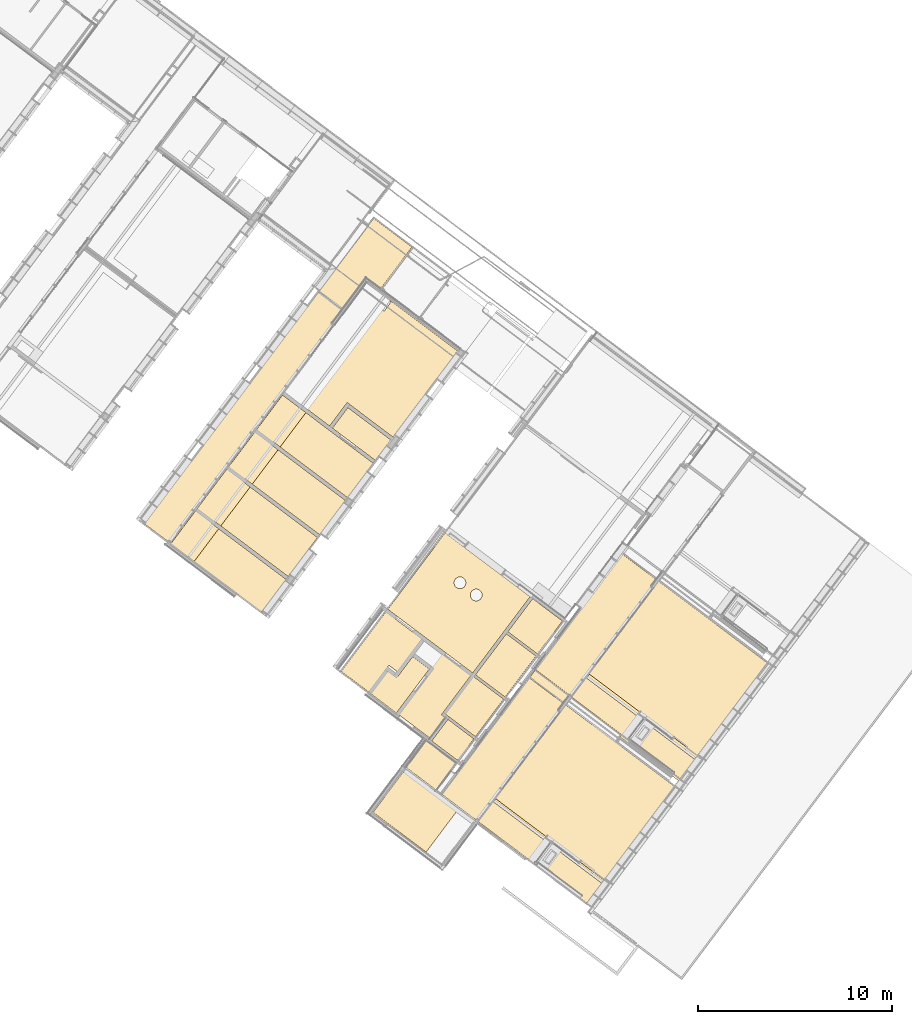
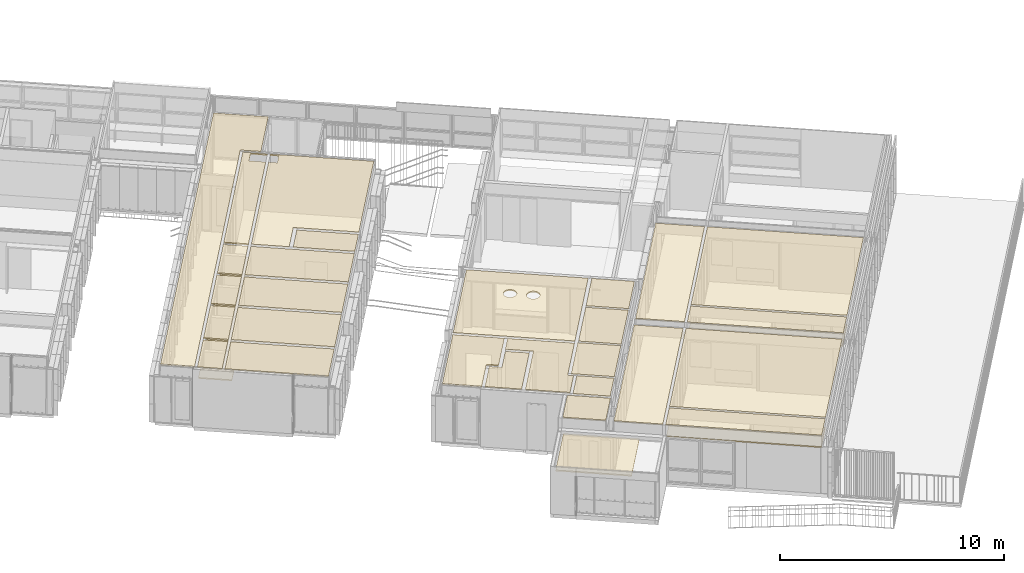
# One storey, part 217 of 243: 30 coverings.
"""IFC2X3 building model written with IfcOpenShell, lengths in metres."""

from ifc_helpers import new_model, entity, si_unit, converted_unit, derived_unit, direction, frame, frame_2d, origin, place, context, subcontext, project, spatial, polyline, circle_curve, parameter, trimmed, segment, composite_curve, rectangle, outline, extrude, material, layer, layer_set, layer_usage, type_object, element, save


model = new_model("IFC2X3")

# Units and contexts
model_context = context("Model", 3, precision=1e-05, world=origin(), true_north=direction((6.123031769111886e-17, 1.0)))
body_context = subcontext(model_context, "Body", "Model", "MODEL_VIEW")
ifc_project = project(units=[si_unit("LENGTHUNIT", "METRE"), si_unit("AREAUNIT", "SQUARE_METRE"), si_unit("VOLUMEUNIT", "CUBIC_METRE"), converted_unit("PLANEANGLEUNIT", "DEGREE", entity("IfcRatioMeasure", 0.017453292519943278), si_unit("PLANEANGLEUNIT", "RADIAN"), dimensions=[0, 0, 0, 0, 0, 0, 0]), si_unit("MASSUNIT", "GRAM", prefix="KILO"), derived_unit("MASSDENSITYUNIT", [(si_unit("MASSUNIT", "GRAM", prefix="KILO"), 1), (si_unit("LENGTHUNIT", "METRE"), -3)]), derived_unit("IONCONCENTRATIONUNIT", [(si_unit("MASSUNIT", "GRAM", prefix="KILO"), 1), (si_unit("LENGTHUNIT", "METRE"), -3)]), derived_unit("MOMENTOFINERTIAUNIT", [(si_unit("LENGTHUNIT", "METRE"), 4)]), si_unit("TIMEUNIT", "SECOND"), si_unit("FREQUENCYUNIT", "HERTZ"), si_unit("THERMODYNAMICTEMPERATUREUNIT", "DEGREE_CELSIUS"), derived_unit("THERMALTRANSMITTANCEUNIT", [(si_unit("MASSUNIT", "GRAM", prefix="KILO"), 1), (si_unit("THERMODYNAMICTEMPERATUREUNIT", "KELVIN"), -1), (si_unit("TIMEUNIT", "SECOND"), -3)]), derived_unit("THERMALCONDUCTANCEUNIT", [(si_unit("MASSUNIT", "GRAM", prefix="KILO"), 1), (si_unit("THERMODYNAMICTEMPERATUREUNIT", "KELVIN"), -1), (si_unit("TIMEUNIT", "SECOND"), -3), (si_unit("LENGTHUNIT", "METRE"), 1)]), derived_unit("VOLUMETRICFLOWRATEUNIT", [(si_unit("LENGTHUNIT", "METRE"), 3), (si_unit("TIMEUNIT", "SECOND"), -1)]), derived_unit("MASSFLOWRATEUNIT", [(si_unit("MASSUNIT", "GRAM", prefix="KILO"), 1), (si_unit("TIMEUNIT", "SECOND"), -1)]), derived_unit("ROTATIONALFREQUENCYUNIT", [(si_unit("TIMEUNIT", "SECOND"), -1)]), si_unit("ELECTRICCURRENTUNIT", "AMPERE"), si_unit("ELECTRICVOLTAGEUNIT", "VOLT"), si_unit("POWERUNIT", "WATT"), si_unit("FORCEUNIT", "NEWTON", prefix="KILO"), si_unit("ILLUMINANCEUNIT", "LUX"), si_unit("LUMINOUSFLUXUNIT", "LUMEN"), si_unit("LUMINOUSINTENSITYUNIT", "CANDELA"), derived_unit("USERDEFINED", [(si_unit("MASSUNIT", "GRAM", prefix="KILO"), -1), (si_unit("LENGTHUNIT", "METRE"), -2), (si_unit("TIMEUNIT", "SECOND"), 3), (si_unit("LUMINOUSFLUXUNIT", "LUMEN"), 1)]), derived_unit("USERDEFINED", [(si_unit("MASSUNIT", "GRAM", prefix="KILO"), 1), (si_unit("TIMEUNIT", "SECOND"), -3), (si_unit("LENGTHUNIT", "METRE"), 3), (si_unit("ELECTRICCURRENTUNIT", "AMPERE"), -2)]), derived_unit("SOUNDPOWERUNIT", [(si_unit("MASSUNIT", "GRAM", prefix="KILO"), 1), (si_unit("TIMEUNIT", "SECOND"), -3), (si_unit("LENGTHUNIT", "METRE"), 2)]), derived_unit("SOUNDPRESSUREUNIT", [(si_unit("MASSUNIT", "GRAM", prefix="KILO"), 1), (si_unit("LENGTHUNIT", "METRE"), -1), (si_unit("TIMEUNIT", "SECOND"), -2)]), derived_unit("LINEARVELOCITYUNIT", [(si_unit("LENGTHUNIT", "METRE"), 1), (si_unit("TIMEUNIT", "SECOND"), -1)]), si_unit("PRESSUREUNIT", "PASCAL"), derived_unit("USERDEFINED", [(si_unit("MASSUNIT", "GRAM", prefix="KILO"), 1), (si_unit("LENGTHUNIT", "METRE"), -2), (si_unit("TIMEUNIT", "SECOND"), -2)]), derived_unit("LINEARFORCEUNIT", [(si_unit("MASSUNIT", "GRAM", prefix="KILO"), 1), (si_unit("TIMEUNIT", "SECOND"), -2)]), derived_unit("PLANARFORCEUNIT", [(si_unit("MASSUNIT", "GRAM", prefix="KILO"), 1), (si_unit("LENGTHUNIT", "METRE"), -1), (si_unit("TIMEUNIT", "SECOND"), -2)]), derived_unit("SPECIFICHEATCAPACITYUNIT", [(si_unit("THERMODYNAMICTEMPERATUREUNIT", "KELVIN"), -1), (si_unit("LENGTHUNIT", "METRE"), 2), (si_unit("TIMEUNIT", "SECOND"), -2)]), derived_unit("HEATINGVALUEUNIT", [(si_unit("LENGTHUNIT", "METRE"), 2), (si_unit("TIMEUNIT", "SECOND"), -2)]), derived_unit("VAPORPERMEABILITYUNIT", [(si_unit("LENGTHUNIT", "METRE"), -1), (si_unit("TIMEUNIT", "SECOND"), 1)]), derived_unit("DYNAMICVISCOSITYUNIT", [(si_unit("MASSUNIT", "GRAM", prefix="KILO"), 1), (si_unit("TIMEUNIT", "SECOND"), -1), (si_unit("LENGTHUNIT", "METRE"), -1)]), derived_unit("THERMALEXPANSIONCOEFFICIENTUNIT", [(si_unit("THERMODYNAMICTEMPERATUREUNIT", "KELVIN"), -1)]), derived_unit("MODULUSOFELASTICITYUNIT", [(si_unit("MASSUNIT", "GRAM", prefix="KILO"), 1), (si_unit("LENGTHUNIT", "METRE"), -1), (si_unit("TIMEUNIT", "SECOND"), -2)]), derived_unit("ISOTHERMALMOISTURECAPACITYUNIT", [(si_unit("LENGTHUNIT", "METRE"), 3), (si_unit("MASSUNIT", "GRAM", prefix="KILO"), -1)]), derived_unit("MOISTUREDIFFUSIVITYUNIT", [(si_unit("TIMEUNIT", "SECOND"), -1), (si_unit("LENGTHUNIT", "METRE"), 2)])], contexts=[model_context])

# Site, building, storey
site_placement = place(None, frame((0.0, 0.0, 235.0), z_axis=(0.0, 0.0, 1.0), x_axis=(-0.7996477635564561, 0.6004693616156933, 0.0)))
site = spatial("IfcSite", under=ifc_project, at=site_placement, Name="Default", CompositionType="ELEMENT")
building_placement = place(site_placement, origin())
building = spatial("IfcBuilding", under=site, at=building_placement, CompositionType="ELEMENT")
storey_placement = place(building_placement, origin())
storey = spatial("IfcBuildingStorey", under=building, at=storey_placement, Name="P0- Escola", CompositionType="ELEMENT", Elevation=0.0)

# Coverings
ifc_material_1 = material(Name="_Aillament")
ifc_layer_1 = layer(ifc_material_1, 0.05)
ifc_material_2 = material(Name="_PYL- SOS")
ifc_layer_2 = layer(ifc_material_2, 0.015)
ifc_layer_set_1 = layer_set([ifc_layer_1, ifc_layer_2], Name="Techo compuesto:SOS- Guix Laminat- Aillament- 6,5 cm")
ifc_layer_usage_1 = layer_usage(ifc_layer_set_1, "AXIS3", "POSITIVE", 0.0)
covering_type_1 = type_object("IfcCoveringType", Name="Techo compuesto:SOS- Guix Laminat- Aillament- 6,5 cm", PredefinedType="CEILING")
covering_1_placement = place(storey_placement, frame((33.816147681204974, -40.08019175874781, 3.0850000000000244)))
element("IfcCovering", 1, at=covering_1_placement, inside=storey, type_object=covering_type_1, material=ifc_layer_usage_1, Name="Techo compuesto:SOS- Guix Laminat- Aillament- 6,5 cm", ObjectType="Techo compuesto:SOS- Guix Laminat- Aillament- 6,5 cm", PredefinedType="CEILING", context=body_context, shape_type="SweptSolid", body=[
    extrude(outline(polyline([(-2.881318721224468, -1.1425714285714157), (12.723053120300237, -1.1425714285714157), (12.723053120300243, 0.39242857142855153), (-4.279196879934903, 0.3924285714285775), (-4.279196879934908, 1.321428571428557), (-7.003196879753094, 1.3214285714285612), (-7.003196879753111, -1.1425714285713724), (-2.881318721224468, -1.1425714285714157)])), frame((1.3214285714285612, 7.003196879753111, 0.0), z_axis=(0.0, 0.0, 1.0), x_axis=(0.0, 1.0, 0.0)), (0.0, 0.0, 1.0), 0.06499999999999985),
])
covering_2_placement = place(storey_placement, frame((28.710147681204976, -37.20119175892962, 3.0850000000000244)))
element("IfcCovering", 2, at=covering_2_placement, inside=storey, type_object=covering_type_1, material=ifc_layer_usage_1, Name="Techo compuesto:SOS- Guix Laminat- Aillament- 6,5 cm", ObjectType="Techo compuesto:SOS- Guix Laminat- Aillament- 6,5 cm", PredefinedType="CEILING", context=body_context, shape_type="SweptSolid", body=[
    extrude(outline(polyline([(-2.6628007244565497, -1.3523999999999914), (-2.6217989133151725, -1.3523999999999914), (-2.6217989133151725, -0.9594000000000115), (-2.0217989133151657, -0.9594000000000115), (-2.02179891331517, -1.3523999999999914), (4.408199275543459, -1.3524000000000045), (4.408199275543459, 0.35359999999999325), (2.8981992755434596, 0.35359999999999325), (2.8981992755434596, 3.310599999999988), (-2.6628007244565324, 3.3105999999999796), (-2.6628007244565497, -1.3523999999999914)])), frame((3.3105999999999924, 2.6628007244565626, 0.0), z_axis=(0.0, 0.0, 1.0), x_axis=(0.0, 1.0, 0.0)), (0.0, 0.0, 1.0), 0.06499999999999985),
    extrude(outline(polyline([(-5.132749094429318, -0.46725000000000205), (1.2972490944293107, -0.46725000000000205), (1.2972490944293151, 0.2897500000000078), (1.8972490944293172, 0.2897500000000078), (1.897249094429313, -0.46725000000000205), (1.938250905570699, -0.46725000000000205), (1.938250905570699, 0.6447499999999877), (-5.132749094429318, 0.6447499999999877), (-5.132749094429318, -0.46725000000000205)])), frame((5.260249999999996, 1.9382509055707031, 0.0), z_axis=(0.0, 0.0, 1.0), x_axis=(0.0, -1.0, 0.0)), (0.0, 0.0, 1.0), 0.06499999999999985),
])
covering_3_placement = place(storey_placement, frame((28.710147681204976, -29.950191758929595, 3.0850000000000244)))
element("IfcCovering", 3, at=covering_3_placement, inside=storey, type_object=covering_type_1, material=ifc_layer_usage_1, Name="Techo compuesto:SOS- Guix Laminat- Aillament- 6,5 cm", ObjectType="Techo compuesto:SOS- Guix Laminat- Aillament- 6,5 cm", PredefinedType="CEILING", context=body_context, shape_type="SweptSolid", body=[
    extrude(rectangle(XDim=4.662999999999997, YDim=2.220999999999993, at=frame_2d((2.220446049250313e-15, 2.1094237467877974e-15), x_axis=(1.0, 0.0))), frame((2.3314999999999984, 1.1104999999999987, 0.0)), (0.0, 0.0, 1.0), 0.06499999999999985),
    extrude(rectangle(XDim=1.1119999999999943, YDim=2.2209999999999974, at=frame_2d((2.1649348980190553e-15, 0.0), x_axis=(1.0, 0.0))), frame((5.348999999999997, 1.1104999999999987, 0.0), z_axis=(0.0, 0.0, 1.0), x_axis=(-1.0, 0.0, 0.0)), (0.0, 0.0, 1.0), 0.06499999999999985),
])
covering_4_placement = place(storey_placement, frame((28.71014768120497, -27.5491917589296, 3.0850000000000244)))
element("IfcCovering", 4, at=covering_4_placement, inside=storey, type_object=covering_type_1, material=ifc_layer_usage_1, Name="Techo compuesto:SOS- Guix Laminat- Aillament- 6,5 cm", ObjectType="Techo compuesto:SOS- Guix Laminat- Aillament- 6,5 cm", PredefinedType="CEILING", context=body_context, shape_type="SweptSolid", body=[
    extrude(rectangle(XDim=4.663000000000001, YDim=2.219000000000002, at=frame_2d((4.440892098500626e-15, 2.1094237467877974e-15), x_axis=(1.0, 0.0))), frame((2.3315000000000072, 1.1095000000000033, 0.0)), (0.0, 0.0, 1.0), 0.06499999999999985),
    extrude(rectangle(XDim=1.1119999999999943, YDim=2.2190000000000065, at=frame_2d((2.1649348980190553e-15, 0.0), x_axis=(1.0, 0.0))), frame((5.3490000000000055, 1.1095000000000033, 0.0)), (0.0, 0.0, 1.0), 0.06499999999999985),
])
covering_5_placement = place(storey_placement, frame((28.71014768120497, -25.150191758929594, 3.0850000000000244)))
element("IfcCovering", 5, at=covering_5_placement, inside=storey, type_object=covering_type_1, material=ifc_layer_usage_1, Name="Techo compuesto:SOS- Guix Laminat- Aillament- 6,5 cm", ObjectType="Techo compuesto:SOS- Guix Laminat- Aillament- 6,5 cm", PredefinedType="CEILING", context=body_context, shape_type="SweptSolid", body=[
    extrude(rectangle(XDim=4.66300000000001, YDim=2.5199999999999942, at=frame_2d((4.218847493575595e-15, 2.1094237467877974e-15), x_axis=(1.0, 0.0))), frame((2.3315000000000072, 1.2599999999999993, 0.0)), (0.0, 0.0, 1.0), 0.06499999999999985),
    extrude(rectangle(XDim=2.5199999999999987, YDim=1.1120000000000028, at=frame_2d((0.0, 2.1649348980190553e-15), x_axis=(1.0, 0.0))), frame((5.349000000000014, 1.2599999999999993, 0.0), z_axis=(0.0, 0.0, 1.0), x_axis=(0.0, 1.0, 0.0)), (0.0, 0.0, 1.0), 0.06499999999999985),
])
covering_6_placement = place(storey_placement, frame((28.71014768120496, -22.450191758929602, 3.0850000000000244)))
element("IfcCovering", 6, at=covering_6_placement, inside=storey, type_object=covering_type_1, material=ifc_layer_usage_1, Name="Techo compuesto:SOS- Guix Laminat- Aillament- 6,5 cm", ObjectType="Techo compuesto:SOS- Guix Laminat- Aillament- 6,5 cm", PredefinedType="CEILING", context=body_context, shape_type="SweptSolid", body=[
    extrude(rectangle(XDim=4.663000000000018, YDim=2.1150000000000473, at=frame_2d((0.0, -2.1094237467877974e-15), x_axis=(1.0, 0.0))), frame((2.3315000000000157, 1.0575000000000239, 0.0)), (0.0, 0.0, 1.0), 0.06499999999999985),
    extrude(rectangle(XDim=2.115000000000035, YDim=1.111999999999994, at=frame_2d((4.3298697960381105e-15, 0.0), x_axis=(1.0, 0.0))), frame((5.349000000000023, 1.0575000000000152, 0.0), z_axis=(0.0, 0.0, 1.0), x_axis=(0.0, 1.0, 0.0)), (0.0, 0.0, 1.0), 0.06499999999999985),
])
covering_7_placement = place(storey_placement, frame((28.710147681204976, -31.460191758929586, 3.0849999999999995)))
element("IfcCovering", 7, at=covering_7_placement, inside=storey, type_object=covering_type_1, material=ifc_layer_usage_1, Name="Techo compuesto:SOS- Guix Laminat- Aillament- 6,5 cm", ObjectType="Techo compuesto:SOS- Guix Laminat- Aillament- 6,5 cm", PredefinedType="CEILING", context=body_context, shape_type="SweptSolid", body=[
    extrude(rectangle(XDim=2.776999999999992, YDim=1.3299999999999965, at=frame_2d((4.3298697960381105e-15, -2.1649348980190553e-15), x_axis=(1.0, 0.0))), frame((1.3884999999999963, 0.6649999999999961, 0.0)), (0.0, 0.0, 1.0), 0.06499999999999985),
])
covering_8_placement = place(storey_placement, frame((13.410147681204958, -33.92519175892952, 3.0849999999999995)))
element("IfcCovering", 8, at=covering_8_placement, inside=storey, type_object=covering_type_1, material=ifc_layer_usage_1, Name="Techo compuesto:SOS- Guix Laminat- Aillament- 6,5 cm", ObjectType="Techo compuesto:SOS- Guix Laminat- Aillament- 6,5 cm", PredefinedType="CEILING", context=body_context, shape_type="SweptSolid", body=[
    extrude(rectangle(XDim=2.1999999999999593, YDim=7.469999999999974, at=frame_2d((1.2989609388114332e-14, 6.439293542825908e-15), x_axis=(1.0, 0.0))), frame((1.1000000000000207, 3.735, 0.0), z_axis=(0.0, 0.0, 1.0), x_axis=(-1.0, 0.0, 0.0)), (0.0, 0.0, 1.0), 0.06499999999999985),
])
covering_9_placement = place(storey_placement, frame((13.410147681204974, -25.925191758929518, 3.0849999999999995)))
element("IfcCovering", 9, at=covering_9_placement, inside=storey, type_object=covering_type_1, material=ifc_layer_usage_1, Name="Techo compuesto:SOS- Guix Laminat- Aillament- 6,5 cm", ObjectType="Techo compuesto:SOS- Guix Laminat- Aillament- 6,5 cm", PredefinedType="CEILING", context=body_context, shape_type="SweptSolid", body=[
    extrude(rectangle(XDim=2.1999999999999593, YDim=7.519999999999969, at=frame_2d((1.0769163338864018e-14, 7.549516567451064e-15), x_axis=(1.0, 0.0))), frame((1.1000000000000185, 3.7599999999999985, 0.0), z_axis=(0.0, 0.0, 1.0), x_axis=(-1.0, 0.0, 0.0)), (0.0, 0.0, 1.0), 0.06499999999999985),
])
covering_10_placement = place(storey_placement, frame((18.095147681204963, -29.300191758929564, 3.0849999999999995)))
element("IfcCovering", 10, at=covering_10_placement, inside=storey, type_object=covering_type_1, material=ifc_layer_usage_1, Name="Techo compuesto:SOS- Guix Laminat- Aillament- 6,5 cm", ObjectType="Techo compuesto:SOS- Guix Laminat- Aillament- 6,5 cm", PredefinedType="CEILING", context=body_context, shape_type="SweptSolid", body=[
    extrude(outline(polyline([(1.1748000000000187, -2.1940000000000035), (2.1727999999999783, -2.1940000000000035), (2.1728, 3.2910000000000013), (-2.7601999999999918, 3.291000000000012), (-2.760200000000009, -2.1939999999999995), (1.1748000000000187, -2.1940000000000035)]), holes=[composite_curve([segment(trimmed(circle_curve(frame_2d((-1.1581999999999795, 1.0129999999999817), x_axis=(0.0, -1.0)), 0.303), [parameter(0.0)], [parameter(180.00000000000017)], True, "PARAMETER"), False, "CONTINUOUS"), segment(trimmed(circle_curve(frame_2d((-1.1581999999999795, 1.0129999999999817), x_axis=(0.0, -1.0)), 0.303), [parameter(180.00000000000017)], [parameter(0.0)], True, "PARAMETER"), False, "CONTINUOUS")], self_intersect=False), composite_curve([segment(trimmed(circle_curve(frame_2d((-1.1581999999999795, -0.03614354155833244), x_axis=(0.0, -1.0)), 0.303), [parameter(180.00000000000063)], [parameter(0.0)], True, "PARAMETER"), False, "CONTINUOUS"), segment(trimmed(circle_curve(frame_2d((-1.1581999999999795, -0.03614354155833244), x_axis=(0.0, -1.0)), 0.303), [parameter(0.0)], [parameter(180.00000000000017)], True, "PARAMETER"), False, "CONTINUOUS")], self_intersect=False)]), frame((3.291000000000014, 2.760200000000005, 0.0), z_axis=(0.0, 0.0, 1.0), x_axis=(0.0, 1.0, 0.0)), (0.0, 0.0, 1.0), 0.06499999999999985),
])
covering_11_placement = place(storey_placement, frame((20.010147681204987, -23.190191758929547, 3.0849999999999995)))
element("IfcCovering", 11, at=covering_11_placement, inside=storey, type_object=covering_type_1, material=ifc_layer_usage_1, Name="Techo compuesto:SOS- Guix Laminat- Aillament- 6,5 cm", ObjectType="Techo compuesto:SOS- Guix Laminat- Aillament- 6,5 cm", PredefinedType="CEILING", context=body_context, shape_type="SweptSolid", body=[
    extrude(outline(polyline([(-0.9103333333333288, -1.3666666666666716), (0.16566666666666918, -1.3666666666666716), (0.16566666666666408, -0.10166666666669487), (0.7446666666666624, -0.10166666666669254), (0.744666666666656, 1.4683333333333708), (-0.9103333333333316, 1.468333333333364), (-0.9103333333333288, -1.3666666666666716)])), frame((0.9103333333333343, 1.3666666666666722, 0.0)), (0.0, 0.0, 1.0), 0.06499999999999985),
])
covering_12_placement = place(storey_placement, frame((16.01014768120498, -27.03319175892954, 3.0849999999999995)))
element("IfcCovering", 12, at=covering_12_placement, inside=storey, type_object=covering_type_1, material=ifc_layer_usage_1, Name="Techo compuesto:SOS- Guix Laminat- Aillament- 6,5 cm", ObjectType="Techo compuesto:SOS- Guix Laminat- Aillament- 6,5 cm", PredefinedType="CEILING", context=body_context, shape_type="SweptSolid", body=[
    extrude(rectangle(XDim=2.653000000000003, YDim=1.919999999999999, at=frame_2d((0.0, -2.1649348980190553e-15), x_axis=(1.0, 0.0))), frame((0.9599999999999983, 1.3265000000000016, 0.0), z_axis=(0.0, 0.0, 1.0), x_axis=(0.0, -1.0, 0.0)), (0.0, 0.0, 1.0), 0.06499999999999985),
])
covering_13_placement = place(storey_placement, frame((16.010147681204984, -29.300191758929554, 3.0849999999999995)))
element("IfcCovering", 13, at=covering_13_placement, inside=storey, type_object=covering_type_1, material=ifc_layer_usage_1, Name="Techo compuesto:SOS- Guix Laminat- Aillament- 6,5 cm", ObjectType="Techo compuesto:SOS- Guix Laminat- Aillament- 6,5 cm", PredefinedType="CEILING", context=body_context, shape_type="SweptSolid", body=[
    extrude(rectangle(XDim=2.1370000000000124, YDim=1.9199999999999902, at=frame_2d((0.0, -3.219646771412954e-15), x_axis=(1.0, 0.0))), frame((0.959999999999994, 1.0685000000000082, 0.0), z_axis=(0.0, 0.0, 1.0), x_axis=(0.0, -1.0, 0.0)), (0.0, 0.0, 1.0), 0.06499999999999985),
])
covering_14_placement = place(storey_placement, frame((16.010147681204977, -21.69019175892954, 3.0849999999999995)))
element("IfcCovering", 14, at=covering_14_placement, inside=storey, type_object=covering_type_1, material=ifc_layer_usage_1, Name="Techo compuesto:SOS- Guix Laminat- Aillament- 6,5 cm", ObjectType="Techo compuesto:SOS- Guix Laminat- Aillament- 6,5 cm", PredefinedType="CEILING", context=body_context, shape_type="SweptSolid", body=[
    extrude(rectangle(XDim=1.4000000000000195, YDim=1.6760000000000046, at=frame_2d((0.0, 1.0547118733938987e-15), x_axis=(1.0, 0.0))), frame((0.8380000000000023, 0.7000000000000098, 0.0), z_axis=(0.0, 0.0, 1.0), x_axis=(0.0, -1.0, 0.0)), (0.0, 0.0, 1.0), 0.06499999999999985),
])
covering_15_placement = place(storey_placement, frame((16.010147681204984, -24.250191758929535, 3.0850000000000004)))
element("IfcCovering", 15, at=covering_15_placement, inside=storey, type_object=covering_type_1, material=ifc_layer_usage_1, Name="Techo compuesto:SOS- Guix Laminat- Aillament- 6,5 cm", ObjectType="Techo compuesto:SOS- Guix Laminat- Aillament- 6,5 cm", PredefinedType="CEILING", context=body_context, shape_type="SweptSolid", body=[
    extrude(rectangle(XDim=1.9450000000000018, YDim=2.429999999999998, at=frame_2d((-1.1102230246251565e-15, 2.1094237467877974e-15), x_axis=(1.0, 0.0))), frame((0.9724999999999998, 1.2149999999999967, 0.0)), (0.0, 0.0, 1.0), 0.06499999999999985),
])
covering_16_placement = place(storey_placement, frame((17.826147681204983, -24.202191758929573, 3.0850000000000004)))
element("IfcCovering", 16, at=covering_16_placement, inside=storey, type_object=covering_type_1, material=ifc_layer_usage_1, Name="Techo compuesto:SOS- Guix Laminat- Aillament- 6,5 cm", ObjectType="Techo compuesto:SOS- Guix Laminat- Aillament- 6,5 cm", PredefinedType="CEILING", context=body_context, shape_type="SweptSolid", body=[
    extrude(outline(polyline([(-1.3932499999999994, -0.7180000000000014), (-1.3932499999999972, -2.043000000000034), (0.625750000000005, -2.043000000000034), (0.6257500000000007, 0.9570000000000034), (1.8917500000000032, 0.9570000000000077), (1.8917500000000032, 1.8040000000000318), (-1.1242500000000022, 1.8040000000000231), (-1.1242499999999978, -0.7180000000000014), (-1.3932499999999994, -0.7180000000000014)])), frame((1.3932499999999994, 1.8040000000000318, 0.0), z_axis=(0.0, 0.0, -1.0), x_axis=(1.0, 0.0, 0.0)), (0.0, 0.0, -1.0), 0.06499999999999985),
])
covering_17_placement = place(storey_placement, frame((21.251147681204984, -24.202191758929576, 3.0850000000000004)))
element("IfcCovering", 17, at=covering_17_placement, inside=storey, type_object=covering_type_1, material=ifc_layer_usage_1, Name="Techo compuesto:SOS- Guix Laminat- Aillament- 6,5 cm", ObjectType="Techo compuesto:SOS- Guix Laminat- Aillament- 6,5 cm", PredefinedType="CEILING", context=body_context, shape_type="SweptSolid", body=[
    extrude(outline(polyline([(0.41033333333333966, -0.12566666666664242), (0.9593333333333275, -0.12566666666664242), (0.9593333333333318, 1.9863333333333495), (-1.3696666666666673, 1.9863333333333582), (-1.3696666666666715, -1.8606666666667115), (0.4103333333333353, -1.8606666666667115), (0.41033333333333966, -0.12566666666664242)])), frame((0.9593333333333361, 1.9863333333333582, 0.0), z_axis=(0.0, 0.0, 1.0), x_axis=(-1.0, 0.0, 0.0)), (0.0, 0.0, 1.0), 0.06499999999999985),
])
covering_18_placement = place(storey_placement, frame((6.250147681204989, -33.92519175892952, 3.0849999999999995)))
element("IfcCovering", 18, at=covering_18_placement, inside=storey, type_object=covering_type_1, material=ifc_layer_usage_1, Name="Techo compuesto:SOS- Guix Laminat- Aillament- 6,5 cm", ObjectType="Techo compuesto:SOS- Guix Laminat- Aillament- 6,5 cm", PredefinedType="CEILING", context=body_context, shape_type="SweptSolid", body=[
    extrude(rectangle(XDim=6.104000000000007, YDim=7.030000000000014, at=frame_2d((-2.5979218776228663e-14, -1.4210854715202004e-14), x_axis=(1.0, 0.0))), frame((3.514999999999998, 3.0519999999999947, 0.0), z_axis=(0.0, 0.0, 1.0), x_axis=(0.0, -1.0, 0.0)), (0.0, 0.0, 1.0), 0.06499999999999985),
])
covering_19_placement = place(storey_placement, frame((6.250147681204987, -27.691191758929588, 3.0849999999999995)))
element("IfcCovering", 19, at=covering_19_placement, inside=storey, type_object=covering_type_1, material=ifc_layer_usage_1, Name="Techo compuesto:SOS- Guix Laminat- Aillament- 6,5 cm", ObjectType="Techo compuesto:SOS- Guix Laminat- Aillament- 6,5 cm", PredefinedType="CEILING", context=body_context, shape_type="SweptSolid", body=[
    extrude(rectangle(XDim=7.030000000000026, YDim=1.2510000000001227, at=frame_2d((-2.6645352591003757e-15, -1.2989609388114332e-14), x_axis=(1.0, 0.0))), frame((3.515000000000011, 0.6255000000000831, 0.0), z_axis=(0.0, 0.0, 1.0), x_axis=(-1.0, 0.0, 0.0)), (0.0, 0.0, 1.0), 0.06499999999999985),
])
covering_20_placement = place(storey_placement, frame((6.250147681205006, -25.94019175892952, 3.0849999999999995)))
element("IfcCovering", 20, at=covering_20_placement, inside=storey, type_object=covering_type_1, material=ifc_layer_usage_1, Name="Techo compuesto:SOS- Guix Laminat- Aillament- 6,5 cm", ObjectType="Techo compuesto:SOS- Guix Laminat- Aillament- 6,5 cm", PredefinedType="CEILING", context=body_context, shape_type="SweptSolid", body=[
    extrude(rectangle(XDim=6.1189999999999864, YDim=7.030000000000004, at=frame_2d((-1.2878587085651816e-14, -1.354472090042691e-14), x_axis=(1.0, 0.0))), frame((3.5149999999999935, 3.059499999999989, 0.0), z_axis=(0.0, 0.0, 1.0), x_axis=(0.0, -1.0, 0.0)), (0.0, 0.0, 1.0), 0.06499999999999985),
])
covering_21_placement = place(storey_placement, frame((6.2501476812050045, -19.691191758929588, 3.0849999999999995)))
element("IfcCovering", 21, at=covering_21_placement, inside=storey, type_object=covering_type_1, material=ifc_layer_usage_1, Name="Techo compuesto:SOS- Guix Laminat- Aillament- 6,5 cm", ObjectType="Techo compuesto:SOS- Guix Laminat- Aillament- 6,5 cm", PredefinedType="CEILING", context=body_context, shape_type="SweptSolid", body=[
    extrude(rectangle(XDim=7.030000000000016, YDim=1.2860000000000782, at=frame_2d((-3.1086244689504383e-15, -1.1934897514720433e-14), x_axis=(1.0, 0.0))), frame((3.515000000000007, 0.6430000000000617, 0.0), z_axis=(0.0, 0.0, 1.0), x_axis=(-1.0, 0.0, 0.0)), (0.0, 0.0, 1.0), 0.06499999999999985),
])
covering_22_placement = place(storey_placement, frame((14.46668898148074, -18.40519175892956, 2.2)))
element("IfcCovering", 22, at=covering_22_placement, inside=storey, type_object=covering_type_1, material=ifc_layer_usage_1, Name="Techo compuesto:SOS- Guix Laminat- Aillament- 6,5 cm", ObjectType="Techo compuesto:SOS- Guix Laminat- Aillament- 6,5 cm", PredefinedType="CEILING", context=body_context, shape_type="SweptSolid", body=[
    extrude(rectangle(XDim=2.8800000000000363, YDim=3.423458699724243, at=frame_2d((-0.45833333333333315, 3.9968028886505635e-15), x_axis=(1.0, 0.0))), frame((1.7117293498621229, 0.9816666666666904, 0.0), z_axis=(0.0, 0.0, 1.0), x_axis=(0.0, -1.0, 0.0)), (0.0, 0.0, 1.0), 0.06500000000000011),
])
covering_23_placement = place(storey_placement, frame((15.980147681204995, -20.12519175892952, 3.0850000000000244)))
element("IfcCovering", 23, at=covering_23_placement, inside=storey, type_object=covering_type_1, material=ifc_layer_usage_1, Name="Techo compuesto:SOS- Guix Laminat- Aillament- 6,5 cm", ObjectType="Techo compuesto:SOS- Guix Laminat- Aillament- 6,5 cm", PredefinedType="CEILING", context=body_context, shape_type="SweptSolid", body=[
    extrude(rectangle(XDim=1.9399999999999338, YDim=1.7199999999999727, at=frame_2d((0.0, 4.3298697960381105e-15), x_axis=(1.0, 0.0))), frame((0.9699999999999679, 0.8599999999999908, 0.0)), (0.0, 0.0, 1.0), 0.06499999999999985),
])
ifc_layer_3 = layer(ifc_material_1, 0.02)
ifc_layer_4 = layer(ifc_material_2, 0.015)
ifc_layer_set_2 = layer_set([ifc_layer_3, ifc_layer_4], Name="Techo compuesto:SOS- Guix Laminat- Aillament- 3,5 cm")
ifc_layer_usage_2 = layer_usage(ifc_layer_set_2, "AXIS3", "POSITIVE", 0.0)
covering_type_2 = type_object("IfcCoveringType", Name="Techo compuesto:SOS- Guix Laminat- Aillament- 3,5 cm", PredefinedType="CEILING")
covering_24_placement = place(storey_placement, frame((13.410147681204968, -26.455191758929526, 2.5650000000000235)))
element("IfcCovering", 24, at=covering_24_placement, inside=storey, type_object=covering_type_2, material=ifc_layer_usage_2, Name="Techo compuesto:SOS- Guix Laminat- Aillament- 3,5 cm", ObjectType="Techo compuesto:SOS- Guix Laminat- Aillament- 3,5 cm", PredefinedType="CEILING", context=body_context, shape_type="SweptSolid", body=[
    extrude(rectangle(XDim=2.2000000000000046, YDim=0.5300000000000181, at=frame_2d((1.1102230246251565e-15, -6.494804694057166e-15), x_axis=(1.0, 0.0))), frame((1.1000000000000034, 0.2650000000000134, 0.0), z_axis=(0.0, 0.0, 1.0), x_axis=(-1.0, 0.0, 0.0)), (0.0, 0.0, 1.0), 0.03500000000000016),
])
ifc_material_3 = material(Name="_Fusta massisa- T1")
ifc_layer_5 = layer(ifc_material_3, 0.06)
ifc_layer_set_3 = layer_set([ifc_layer_5], Name="Techo compuesto:SOS- Fusta- Revestiment- 6 cm")
ifc_layer_usage_3 = layer_usage(ifc_layer_set_3, "AXIS3", "POSITIVE", 0.0)
covering_type_3 = type_object("IfcCoveringType", Name="Techo compuesto:SOS- Fusta- Revestiment- 6 cm", PredefinedType="CEILING")
covering_25_placement = place(storey_placement, frame((6.252750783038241, -27.9401917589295, 2.505000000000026)))
element("IfcCovering", 25, at=covering_25_placement, inside=storey, type_object=covering_type_3, material=ifc_layer_usage_3, Name="Techo compuesto:SOS- Fusta- Revestiment- 6 cm", ObjectType="Techo compuesto:SOS- Fusta- Revestiment- 6 cm", PredefinedType="CEILING", context=body_context, shape_type="SweptSolid", body=[
    extrude(outline(polyline([(-0.18899999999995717, -0.5933309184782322), (3.5889999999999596, -0.5933309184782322), (3.5889999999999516, 1.046665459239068), (-3.4000000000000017, 1.0466654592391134), (-3.399999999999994, -0.4533345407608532), (-0.18899999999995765, -0.4533345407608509), (-0.18899999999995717, -0.5933309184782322)])), frame((3.5889999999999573, 1.0466654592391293, 0.0), z_axis=(0.0, 0.0, 1.0), x_axis=(-1.0, 0.0, 0.0)), (0.0, 0.0, 1.0), 0.059999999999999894),
])
covering_26_placement = place(storey_placement, frame((6.250147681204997, -19.89019175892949, 2.505000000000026)))
element("IfcCovering", 26, at=covering_26_placement, inside=storey, type_object=covering_type_3, material=ifc_layer_usage_3, Name="Techo compuesto:SOS- Fusta- Revestiment- 6 cm", ObjectType="Techo compuesto:SOS- Fusta- Revestiment- 6 cm", PredefinedType="CEILING", context=body_context, shape_type="SweptSolid", body=[
    extrude(rectangle(XDim=6.988999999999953, YDim=1.549999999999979, at=frame_2d((-8.881784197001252e-16, -1.404432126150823e-14), x_axis=(1.0, 0.0))), frame((3.4944999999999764, 0.7750000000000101, 0.0), z_axis=(0.0, 0.0, 1.0), x_axis=(-1.0, 0.0, 0.0)), (0.0, 0.0, 1.0), 0.059999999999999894),
])
covering_27_placement = place(storey_placement, frame((33.062147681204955, -29.95019175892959, 2.5050000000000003)))
element("IfcCovering", 27, at=covering_27_placement, inside=storey, type_object=covering_type_3, material=ifc_layer_usage_3, Name="Techo compuesto:SOS- Fusta- Revestiment- 6 cm", ObjectType="Techo compuesto:SOS- Fusta- Revestiment- 6 cm", PredefinedType="CEILING", context=body_context, shape_type="SweptSolid", body=[
    extrude(outline(polyline([(-0.7103333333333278, -0.6518333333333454), (1.510666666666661, -0.6518333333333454), (1.510666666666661, 0.8626666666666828), (-0.8003333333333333, 0.8626666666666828), (-0.8003333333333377, -0.2108333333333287), (-0.7103333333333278, -0.2108333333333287), (-0.7103333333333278, -0.6518333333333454)])), frame((0.6518333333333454, 1.5106666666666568, 0.0), z_axis=(0.0, 0.0, 1.0), x_axis=(0.0, -1.0, 0.0)), (0.0, 0.0, 1.0), 0.059999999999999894),
])
covering_28_placement = place(storey_placement, frame((33.06214768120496, -27.639191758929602, 2.5050000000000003)))
element("IfcCovering", 28, at=covering_28_placement, inside=storey, type_object=covering_type_3, material=ifc_layer_usage_3, Name="Techo compuesto:SOS- Fusta- Revestiment- 6 cm", ObjectType="Techo compuesto:SOS- Fusta- Revestiment- 6 cm", PredefinedType="CEILING", context=body_context, shape_type="SweptSolid", body=[
    extrude(outline(polyline([(-1.1095000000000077, -0.5991250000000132), (1.1094999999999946, -0.5991250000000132), (1.1094999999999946, -0.15812500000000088), (1.1994999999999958, -0.15812500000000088), (1.1995000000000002, 0.915375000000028), (-1.1995000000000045, 0.9153750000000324), (-1.199500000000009, -0.15812499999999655), (-1.1095000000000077, -0.15812499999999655), (-1.1095000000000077, -0.5991250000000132)])), frame((0.5991250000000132, 1.1995000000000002, 0.0), z_axis=(0.0, 0.0, 1.0), x_axis=(0.0, -1.0, 0.0)), (0.0, 0.0, 1.0), 0.059999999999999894),
])
covering_29_placement = place(storey_placement, frame((33.06214768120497, -25.240191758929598, 2.5050000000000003)))
element("IfcCovering", 29, at=covering_29_placement, inside=storey, type_object=covering_type_3, material=ifc_layer_usage_3, Name="Techo compuesto:SOS- Fusta- Revestiment- 6 cm", ObjectType="Techo compuesto:SOS- Fusta- Revestiment- 6 cm", PredefinedType="CEILING", context=body_context, shape_type="SweptSolid", body=[
    extrude(outline(polyline([(-1.2599999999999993, -0.5991250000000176), (1.2599999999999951, -0.5991250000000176), (1.2599999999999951, -0.1581250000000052), (1.3499999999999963, -0.1581250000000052), (1.3500000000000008, 0.915375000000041), (-1.3499999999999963, 0.915375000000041), (-1.3500000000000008, -0.15812500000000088), (-1.2599999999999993, -0.15812500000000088), (-1.2599999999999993, -0.5991250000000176)])), frame((0.5991250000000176, 1.3500000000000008, 0.0), z_axis=(0.0, 0.0, 1.0), x_axis=(0.0, -1.0, 0.0)), (0.0, 0.0, 1.0), 0.059999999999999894),
])
covering_30_placement = place(storey_placement, frame((33.06214768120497, -22.5401917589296, 2.5050000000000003)))
element("IfcCovering", 30, at=covering_30_placement, inside=storey, type_object=covering_type_3, material=ifc_layer_usage_3, Name="Techo compuesto:SOS- Fusta- Revestiment- 6 cm", ObjectType="Techo compuesto:SOS- Fusta- Revestiment- 6 cm", PredefinedType="CEILING", context=body_context, shape_type="SweptSolid", body=[
    extrude(outline(polyline([(-0.8626666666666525, -1.4400000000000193), (0.6518333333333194, -1.4400000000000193), (0.6518333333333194, 0.6750000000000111), (0.21083333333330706, 0.6750000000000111), (0.21083333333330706, 0.7650000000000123), (-0.8626666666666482, 0.7650000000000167), (-0.8626666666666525, -1.4400000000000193)])), frame((0.6518333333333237, 0.7650000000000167, 0.0), z_axis=(0.0, 0.0, 1.0), x_axis=(-1.0, 0.0, 0.0)), (0.0, 0.0, 1.0), 0.059999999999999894),
])

save(model, "model.ifc")
